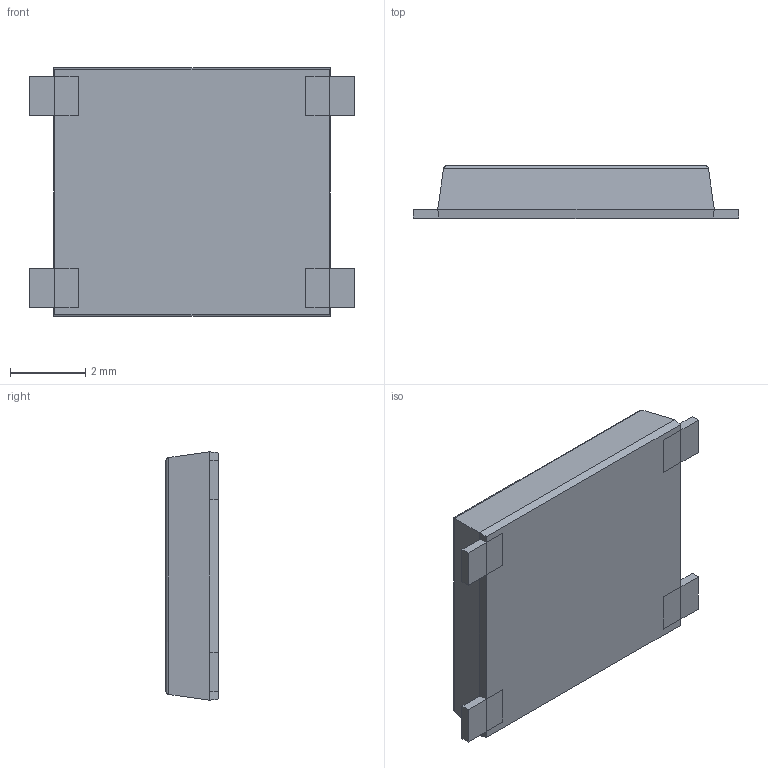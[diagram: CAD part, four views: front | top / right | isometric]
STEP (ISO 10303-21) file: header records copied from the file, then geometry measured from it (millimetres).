
FILE_DESCRIPTION (( 'STEP AP214' ), '1' );
FILE_NAME ('1404D00-00.STEP', '2021-04-13T06:33:16', ( '' ), ( '' ), 'SwSTEP 2.0', 'SolidWorks 2020', '' );
FILE_SCHEMA (( 'AUTOMOTIVE_DESIGN' ));
Length unit declared in the file: millimetre
Products named in the file (3): 1404D00-00 compound; 1404D00-00 leadframe; 1404D00-00
Assembly tree (2 placements, depth 2):
  1404D00-00
    1404D00-00 compound
    1404D00-00 leadframe
Bounding box: 8.65 x 1.4 x 6.6 mm (x, y, z)
Volume: 66.4 mm3; surface area: 144.7 mm2
Topology: 5 solids, 5 shells, 40 faces, 86 edges, 56 vertices
Faces by surface type: plane 36, cylinder 4
Entity records: 1671 total; most frequent: CARTESIAN_POINT 243, ORIENTED_EDGE 172, DIRECTION 168, EDGE_CURVE 86, LINE 78, VECTOR 78, VERTEX_POINT 56, UNCERTAINTY_MEASURE_WITH_UNIT 50
